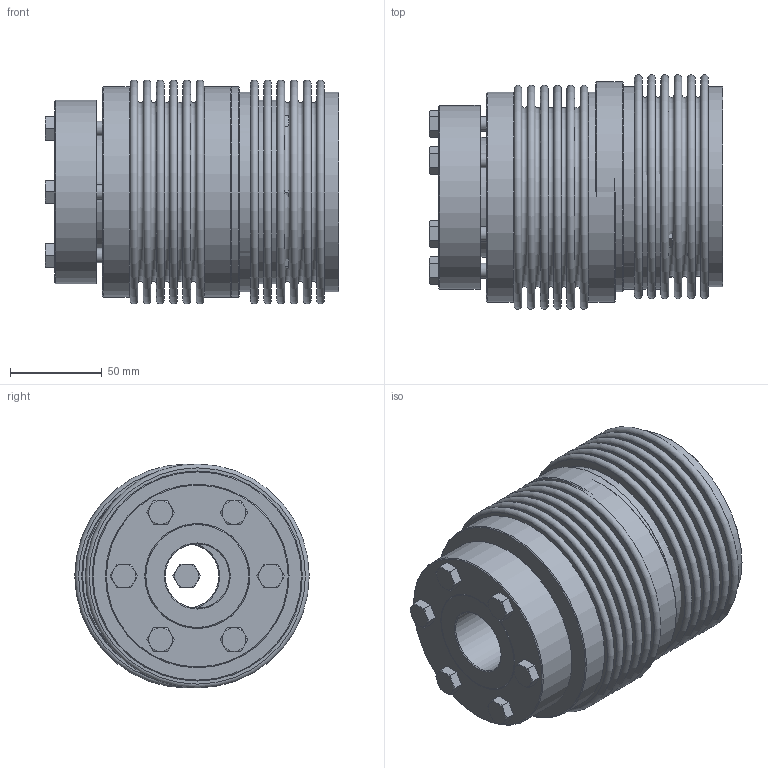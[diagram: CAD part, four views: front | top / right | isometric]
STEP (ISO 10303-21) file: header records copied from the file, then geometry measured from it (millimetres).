
FILE_DESCRIPTION( ( 'Unknown' ), '1' );
FILE_NAME( 'C:/Dokumente und Einstellungen/Sven/Desktop/homepage/cad - homepage/KB6/KB6-500-134.stp', 'Unknown', ( 'Unknown' ), ( 'Unknown' ), 'XStep 1.0', 'Unknown', ' ' );
FILE_SCHEMA( ( 'automotive_design' ) );
Length unit declared in the file: millimetre
Products named in the file (5): Assem1; BA500_Standard_1; Hex Screw GradeC_DIN_ISO 4018 - M8 x 40-NN_1; DR500_Standard_1; BL500_Standard
Bounding box: 160.14 x 127.73 x 122 mm (x, y, z)
Volume: 988996.6 mm3; surface area: 438794.8 mm2
Topology: 21 solids, 21 shells, 415 faces, 837 edges, 528 vertices
Faces by surface type: plane 184, cone 118, cylinder 69, torus 44
Full cylindrical faces by diameter (mm): 6.8 x18, 8 x13, 9 x18, 35 x3, 65.111 x3, 100 x3, 107.7 x4, 108.9 x4, 114.5 x3
Entity records: 2524 total; most frequent: DIRECTION 452, CARTESIAN_POINT 395, ORIENTED_EDGE 254, AXIS2_PLACEMENT_3D 220, EDGE_LOOP 208, FACE_OUTER_BOUND 142, EDGE_CURVE 127, VERTEX_POINT 115
